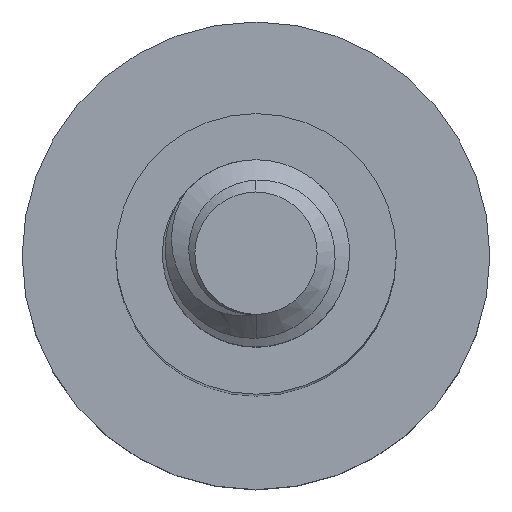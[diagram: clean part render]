
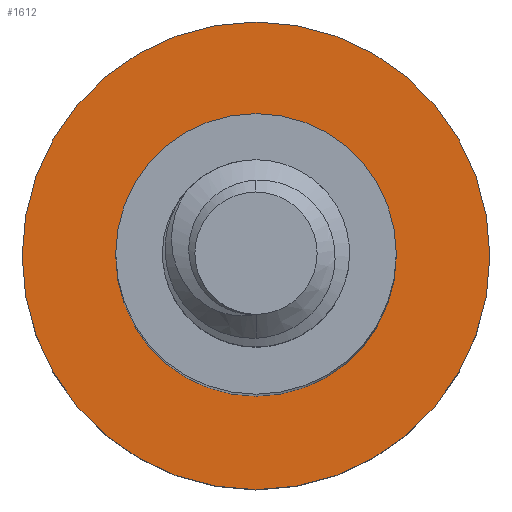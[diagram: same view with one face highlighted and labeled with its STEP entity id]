
A CAD part, top view. The second image highlights one B-rep face of the part: STEP entity #1612.
In plain terms, the highlighted planar face has unit normal (0, 0, 1).
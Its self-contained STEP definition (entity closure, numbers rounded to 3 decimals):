
#12 = CIRCLE ( 'NONE', #282, 2.5 ) ;
#89 = DIRECTION ( 'NONE',  ( -1., 0., 0. ) ) ;
#160 = VERTEX_POINT ( 'NONE', #722 ) ;
#169 = CARTESIAN_POINT ( 'NONE',  ( 1.5, 0., -12. ) ) ;
#221 = EDGE_CURVE ( 'NONE', #1945, #160, #1677, .T. ) ;
#232 = ORIENTED_EDGE ( 'NONE', *, *, #221, .T. ) ;
#273 = DIRECTION ( 'NONE',  ( 0., 0., -1. ) ) ;
#282 = AXIS2_PLACEMENT_3D ( 'NONE', #1623, #2018, #654 ) ;
#363 = ORIENTED_EDGE ( 'NONE', *, *, #1769, .F. ) ;
#368 = AXIS2_PLACEMENT_3D ( 'NONE', #1218, #273, #2328 ) ;
#398 = EDGE_CURVE ( 'NONE', #160, #1945, #632, .T. ) ;
#447 = CIRCLE ( 'NONE', #484, 2.5 ) ;
#449 = DIRECTION ( 'NONE',  ( -1., 0., 0. ) ) ;
#463 = FACE_BOUND ( 'NONE', #644, .T. ) ;
#484 = AXIS2_PLACEMENT_3D ( 'NONE', #2339, #2164, #449 ) ;
#532 = VERTEX_POINT ( 'NONE', #1275 ) ;
#604 = EDGE_LOOP ( 'NONE', ( #363, #953 ) ) ;
#609 = FACE_OUTER_BOUND ( 'NONE', #604, .T. ) ;
#632 = CIRCLE ( 'NONE', #875, 1.5 ) ;
#644 = EDGE_LOOP ( 'NONE', ( #2302, #232 ) ) ;
#654 = DIRECTION ( 'NONE',  ( -1., 0., 0. ) ) ;
#718 = CARTESIAN_POINT ( 'NONE',  ( 2.5, 0., -12. ) ) ;
#722 = CARTESIAN_POINT ( 'NONE',  ( -1.5, 0., -12. ) ) ;
#808 = DIRECTION ( 'NONE',  ( 0., 0., -1. ) ) ;
#875 = AXIS2_PLACEMENT_3D ( 'NONE', #1969, #808, #89 ) ;
#953 = ORIENTED_EDGE ( 'NONE', *, *, #2407, .F. ) ;
#1218 = CARTESIAN_POINT ( 'NONE',  ( 0., 0., -12. ) ) ;
#1275 = CARTESIAN_POINT ( 'NONE',  ( -2.5, 0., -12. ) ) ;
#1368 = DIRECTION ( 'NONE',  ( 0., 0., -1. ) ) ;
#1540 = DIRECTION ( 'NONE',  ( -1., 0., 0. ) ) ;
#1551 = CARTESIAN_POINT ( 'NONE',  ( 0., 0., -12. ) ) ;
#1612 = ADVANCED_FACE ( 'NONE', ( #463, #609 ), #1952, .F. ) ;
#1623 = CARTESIAN_POINT ( 'NONE',  ( 0., 0., -12. ) ) ;
#1677 = CIRCLE ( 'NONE', #2200, 1.5 ) ;
#1769 = EDGE_CURVE ( 'NONE', #2323, #532, #12, .T. ) ;
#1945 = VERTEX_POINT ( 'NONE', #169 ) ;
#1952 = PLANE ( 'NONE',  #368 ) ;
#1969 = CARTESIAN_POINT ( 'NONE',  ( 0., 0., -12. ) ) ;
#2018 = DIRECTION ( 'NONE',  ( 0., 0., -1. ) ) ;
#2164 = DIRECTION ( 'NONE',  ( 0., 0., -1. ) ) ;
#2200 = AXIS2_PLACEMENT_3D ( 'NONE', #1551, #1368, #1540 ) ;
#2302 = ORIENTED_EDGE ( 'NONE', *, *, #398, .T. ) ;
#2323 = VERTEX_POINT ( 'NONE', #718 ) ;
#2328 = DIRECTION ( 'NONE',  ( -1., 0., 0. ) ) ;
#2339 = CARTESIAN_POINT ( 'NONE',  ( 0., 0., -12. ) ) ;
#2407 = EDGE_CURVE ( 'NONE', #532, #2323, #447, .T. ) ;
